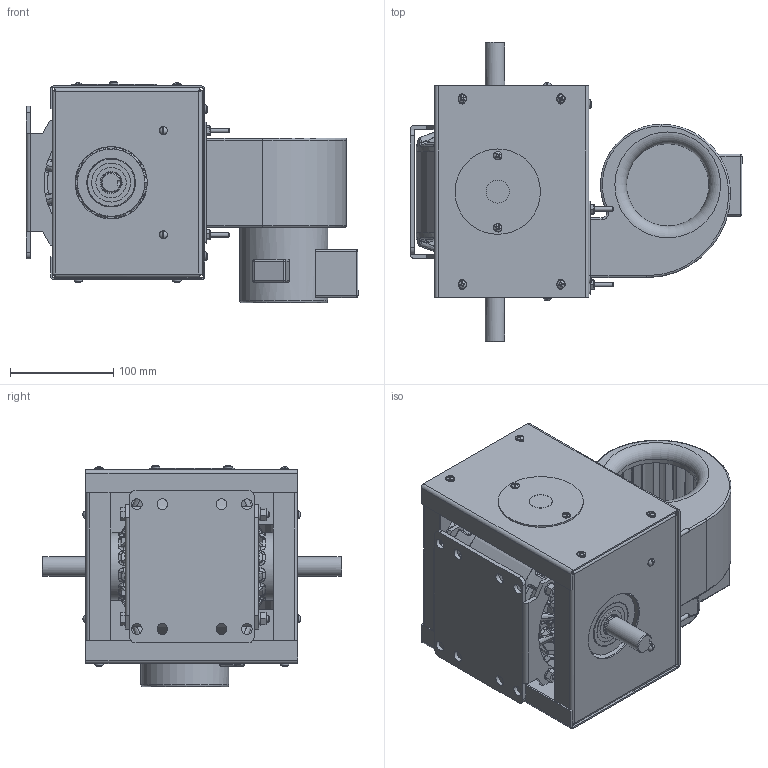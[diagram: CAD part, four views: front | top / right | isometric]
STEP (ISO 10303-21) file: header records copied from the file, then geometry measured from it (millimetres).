
FILE_DESCRIPTION(/* description */ ('STEP AP214'),/* implementation_level */ '2;1');
FILE_NAME(/* name */ '10MCA90B20_stp.step',/* time_stamp */ '2026-05-12T15:26:26-05:00',/* author */ (''),/* organization */ (''),/* preprocessor_version */ 'ST-DEVELOPER v20.1',/* originating_system */ 'Autodesk Translation Framework v15.8.0.0',/* authorisation */ '');
FILE_SCHEMA (('AUTOMOTIVE_DESIGN { 1 0 10303 214 3 1 1 }'));
Products named in the file (1): 10MCA90B20_asm_stp
Bounding box: 320.94 x 289.77 x 214.06 mm (x, y, z)
Volume: 2504579.9 mm3; surface area: 947477.3 mm2
Topology: 3 solids, 8 shells, 3237 faces, 8060 edges, 4717 vertices
Faces by surface type: plane 977, bspline 828, cylinder 751, torus 325, cone 250, sphere 106
Full cylindrical faces by diameter (mm): 3.306 x14, 4.039 x2, 4.166 x26, 4.366 x4, 4.762 x2, 5.556 x14, 6.35 x6, 6.747 x6, 7.137 x4, 7.144 x4, 7.849 x4, 10.319 x8, 12.7 x1, 13.208 x2, 13.487 x2, 13.494 x1, 19.05 x4, 19.101 x4, 19.939 x1, 20.008 x10, 22.225 x1, 23.79 x1, 23.8 x2, 29.375 x8, 31.75 x1, 37.625 x8, 38.1 x1, 44.45 x1, 46.998 x4, 47.65 x1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
Entity records: 152317 total; most frequent: CARTESIAN_POINT 80942, ORIENTED_EDGE 15880, DIRECTION 14175, EDGE_CURVE 7940, AXIS2_PLACEMENT_3D 5918, VERTEX_POINT 4717, EDGE_LOOP 3513, CIRCLE 3356
